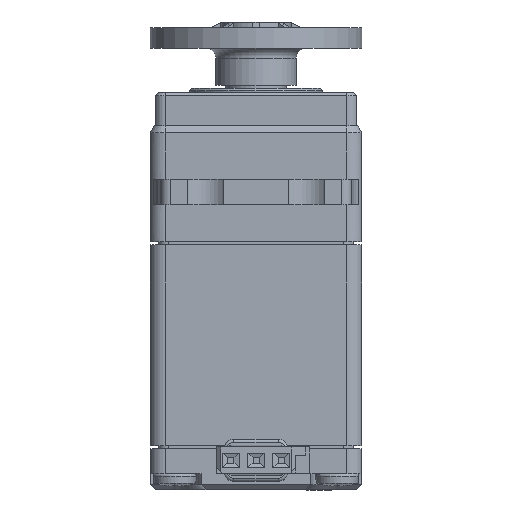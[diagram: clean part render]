
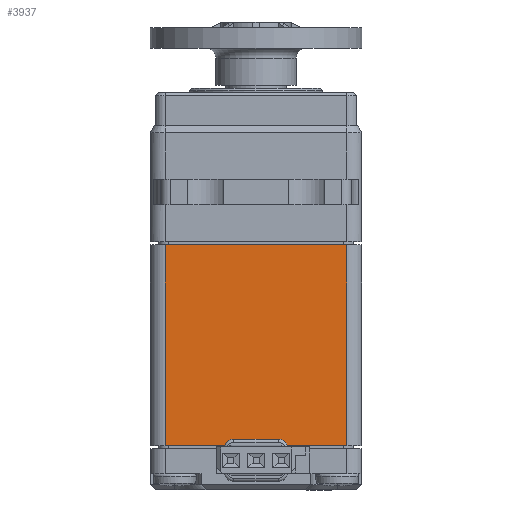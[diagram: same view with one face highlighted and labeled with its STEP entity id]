
A CAD part, front view. The second image highlights one B-rep face of the part: STEP entity #3937.
In plain terms, the highlighted planar face has unit normal (0, -1, 0).
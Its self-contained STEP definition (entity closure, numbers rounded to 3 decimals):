
#178 = DIRECTION ( 'NONE',  ( 0., 0., -1. ) ) ;
#199 = ORIENTED_EDGE ( 'NONE', *, *, #7858, .F. ) ;
#274 = DIRECTION ( 'NONE',  ( -1., 0., 0. ) ) ;
#971 = VECTOR ( 'NONE', #20517, 1000. ) ;
#1097 = LINE ( 'NONE', #4730, #7569 ) ;
#1708 = DIRECTION ( 'NONE',  ( 0., 0., 1. ) ) ;
#1942 = EDGE_CURVE ( 'NONE', #15614, #3076, #13874, .T. ) ;
#2028 = CARTESIAN_POINT ( 'NONE',  ( -2.2, -10.3, -35.35 ) ) ;
#2108 = EDGE_CURVE ( 'NONE', #21304, #14970, #6596, .T. ) ;
#2138 = DIRECTION ( 'NONE',  ( 1., 0., 0. ) ) ;
#2270 = ORIENTED_EDGE ( 'NONE', *, *, #15125, .F. ) ;
#2750 = DIRECTION ( 'NONE',  ( 0., 1., 0. ) ) ;
#3076 = VERTEX_POINT ( 'NONE', #22891 ) ;
#3659 = LINE ( 'NONE', #15845, #11004 ) ;
#3879 = ORIENTED_EDGE ( 'NONE', *, *, #1942, .F. ) ;
#3903 = DIRECTION ( 'NONE',  ( 0., 0., 1. ) ) ;
#3937 = ADVANCED_FACE ( 'NONE', ( #18659 ), #11711, .F. ) ;
#4555 = EDGE_CURVE ( 'NONE', #3076, #15450, #3659, .T. ) ;
#4576 = CIRCLE ( 'NONE', #8283, 1. ) ;
#4730 = CARTESIAN_POINT ( 'NONE',  ( -22.579, -10.3, -35. ) ) ;
#5273 = CARTESIAN_POINT ( 'NONE',  ( -9., -10.3, -35. ) ) ;
#5599 = EDGE_LOOP ( 'NONE', ( #3879, #12813, #199, #9750, #2270, #7605, #12395, #22022 ) ) ;
#6137 = CARTESIAN_POINT ( 'NONE',  ( -22.579, -10.3, -15.1 ) ) ;
#6596 = LINE ( 'NONE', #6137, #971 ) ;
#7186 = CARTESIAN_POINT ( 'NONE',  ( 2.2, -10.3, -35.35 ) ) ;
#7386 = CARTESIAN_POINT ( 'NONE',  ( -22.579, -10.3, -35. ) ) ;
#7393 = DIRECTION ( 'NONE',  ( 0., -1., 0. ) ) ;
#7569 = VECTOR ( 'NONE', #11819, 1000. ) ;
#7605 = ORIENTED_EDGE ( 'NONE', *, *, #11959, .T. ) ;
#7858 = EDGE_CURVE ( 'NONE', #14970, #21937, #20800, .T. ) ;
#8283 = AXIS2_PLACEMENT_3D ( 'NONE', #2028, #7393, #3903 ) ;
#8808 = DIRECTION ( 'NONE',  ( 0., -1., 0. ) ) ;
#9750 = ORIENTED_EDGE ( 'NONE', *, *, #2108, .F. ) ;
#9763 = CARTESIAN_POINT ( 'NONE',  ( 9., -10.3, -35. ) ) ;
#10823 = CARTESIAN_POINT ( 'NONE',  ( 3.137, -10.3, -35. ) ) ;
#11004 = VECTOR ( 'NONE', #274, 1000. ) ;
#11711 = PLANE ( 'NONE',  #21475 ) ;
#11819 = DIRECTION ( 'NONE',  ( 1., 0., 0. ) ) ;
#11959 = EDGE_CURVE ( 'NONE', #15098, #15144, #1097, .T. ) ;
#12145 = DIRECTION ( 'NONE',  ( 0., 0., 1. ) ) ;
#12395 = ORIENTED_EDGE ( 'NONE', *, *, #16638, .F. ) ;
#12813 = ORIENTED_EDGE ( 'NONE', *, *, #20266, .T. ) ;
#13452 = CARTESIAN_POINT ( 'NONE',  ( 10.5, -10.3, -15.1 ) ) ;
#13874 = CIRCLE ( 'NONE', #14233, 1. ) ;
#13944 = CARTESIAN_POINT ( 'NONE',  ( 9., -10.3, -15.1 ) ) ;
#14233 = AXIS2_PLACEMENT_3D ( 'NONE', #7186, #8808, #1708 ) ;
#14970 = VERTEX_POINT ( 'NONE', #16103 ) ;
#15098 = VERTEX_POINT ( 'NONE', #5273 ) ;
#15125 = EDGE_CURVE ( 'NONE', #15098, #21304, #17570, .T. ) ;
#15144 = VERTEX_POINT ( 'NONE', #21080 ) ;
#15450 = VERTEX_POINT ( 'NONE', #16876 ) ;
#15614 = VERTEX_POINT ( 'NONE', #10823 ) ;
#15725 = VECTOR ( 'NONE', #2138, 1000. ) ;
#15845 = CARTESIAN_POINT ( 'NONE',  ( 10.5, -10.3, -34.35 ) ) ;
#16103 = CARTESIAN_POINT ( 'NONE',  ( 9., -10.3, -15.1 ) ) ;
#16638 = EDGE_CURVE ( 'NONE', #15450, #15144, #4576, .T. ) ;
#16876 = CARTESIAN_POINT ( 'NONE',  ( -2.2, -10.3, -34.35 ) ) ;
#16921 = DIRECTION ( 'NONE',  ( 1., 0., 0. ) ) ;
#17226 = CARTESIAN_POINT ( 'NONE',  ( -9., -10.3, -15.1 ) ) ;
#17570 = LINE ( 'NONE', #17226, #21605 ) ;
#18659 = FACE_OUTER_BOUND ( 'NONE', #5599, .T. ) ;
#19684 = LINE ( 'NONE', #7386, #15725 ) ;
#20266 = EDGE_CURVE ( 'NONE', #15614, #21937, #19684, .T. ) ;
#20419 = CARTESIAN_POINT ( 'NONE',  ( -9., -10.3, -15.1 ) ) ;
#20517 = DIRECTION ( 'NONE',  ( 1., 0., 0. ) ) ;
#20800 = LINE ( 'NONE', #13944, #21433 ) ;
#21080 = CARTESIAN_POINT ( 'NONE',  ( -3.137, -10.3, -35. ) ) ;
#21304 = VERTEX_POINT ( 'NONE', #20419 ) ;
#21433 = VECTOR ( 'NONE', #178, 1000. ) ;
#21475 = AXIS2_PLACEMENT_3D ( 'NONE', #13452, #2750, #16921 ) ;
#21605 = VECTOR ( 'NONE', #12145, 1000. ) ;
#21937 = VERTEX_POINT ( 'NONE', #9763 ) ;
#22022 = ORIENTED_EDGE ( 'NONE', *, *, #4555, .F. ) ;
#22891 = CARTESIAN_POINT ( 'NONE',  ( 2.2, -10.3, -34.35 ) ) ;
